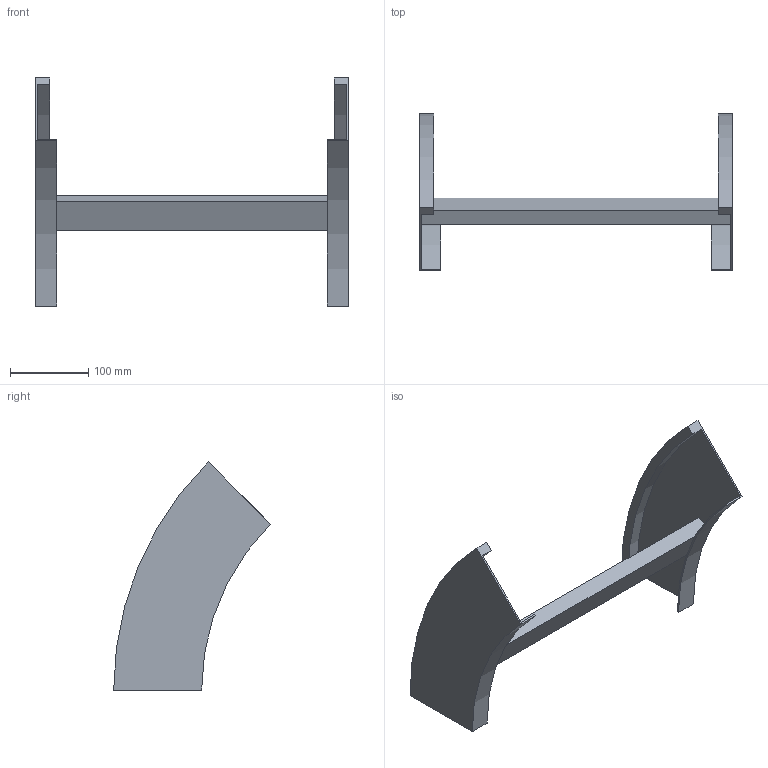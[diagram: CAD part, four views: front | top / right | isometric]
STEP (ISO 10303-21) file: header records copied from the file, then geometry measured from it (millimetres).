
FILE_DESCRIPTION (( 'STEP AP214' ), '1' );
FILE_NAME ('B2_34B3J400.step', '2025-02-21T14:53:50', ( '' ), ( '' ), 'SwSTEP 2.0', 'SolidWorks 2023', '' );
FILE_SCHEMA (( 'AUTOMOTIVE_DESIGN' ));
Length unit declared in the file: millimetre
Products named in the file (3): TRAVERSINO_400; B2_LONGH.DISCESA_45°_H112.5_R300; B2_34B3J400
Assembly tree (3 placements, depth 2):
  B2_34B3J400
    B2_LONGH.DISCESA_45°_H112.5_R300  x2
    TRAVERSINO_400
Bounding box: 400 x 200.37 x 291.68 mm (x, y, z)
Volume: 592907.1 mm3; surface area: 223624.9 mm2
Topology: 3 solids, 3 shells, 26 faces, 60 edges, 40 vertices
Faces by surface type: plane 18, cylinder 8
Entity records: 544 total; most frequent: DIRECTION 88, CARTESIAN_POINT 82, ORIENTED_EDGE 72, EDGE_CURVE 36, AXIS2_PLACEMENT_3D 30, VECTOR 28, LINE 28, VERTEX_POINT 24
